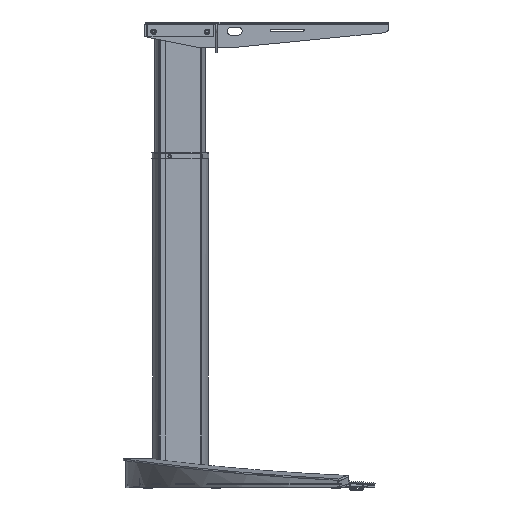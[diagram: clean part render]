
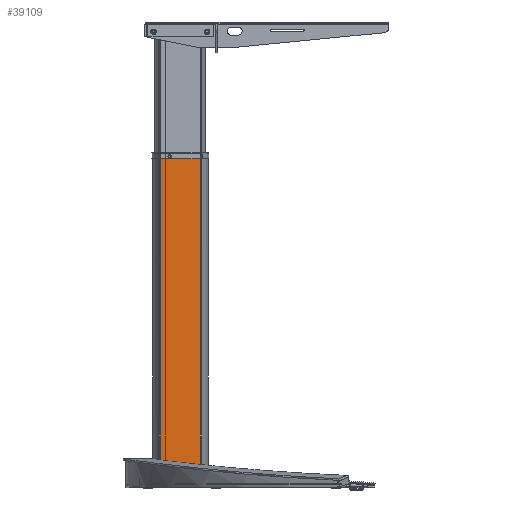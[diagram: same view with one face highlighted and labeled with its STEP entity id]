
A CAD part, left-side view. The second image highlights one B-rep face of the part: STEP entity #39109.
In plain terms, the highlighted planar face has unit normal (-1, 0, 0).
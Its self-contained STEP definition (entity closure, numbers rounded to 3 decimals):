
#482 = ORIENTED_EDGE ( 'NONE', *, *, #15010, .T. ) ;
#763 = VERTEX_POINT ( 'NONE', #54035 ) ;
#1947 = EDGE_LOOP ( 'NONE', ( #65397 ) ) ;
#3907 = VECTOR ( 'NONE', #50839, 1000. ) ;
#4555 = CARTESIAN_POINT ( 'NONE',  ( -70., -39., 0. ) ) ;
#5405 = ORIENTED_EDGE ( 'NONE', *, *, #64139, .F. ) ;
#5839 = VERTEX_POINT ( 'NONE', #33212 ) ;
#6597 = PLANE ( 'NONE',  #32232 ) ;
#7119 = ORIENTED_EDGE ( 'NONE', *, *, #12530, .T. ) ;
#8088 = CARTESIAN_POINT ( 'NONE',  ( -70., 12.4, 4.1 ) ) ;
#8822 = EDGE_LOOP ( 'NONE', ( #5405, #56926, #22503, #30174, #25207, #14390, #7119, #30682, #20353, #29111, #69100, #482 ) ) ;
#9434 = VECTOR ( 'NONE', #44967, 1000. ) ;
#9830 = LINE ( 'NONE', #36244, #23293 ) ;
#11983 = CARTESIAN_POINT ( 'NONE',  ( -70., 12.4, 644. ) ) ;
#12367 = EDGE_CURVE ( 'NONE', #763, #59251, #73743, .T. ) ;
#12530 = EDGE_CURVE ( 'NONE', #19166, #763, #27250, .T. ) ;
#12806 = DIRECTION ( 'NONE',  ( 1., 0., 0. ) ) ;
#13838 = VECTOR ( 'NONE', #63009, 1000. ) ;
#14390 = ORIENTED_EDGE ( 'NONE', *, *, #35359, .F. ) ;
#15010 = EDGE_CURVE ( 'NONE', #62710, #49616, #66361, .T. ) ;
#16326 = CARTESIAN_POINT ( 'NONE',  ( -70., 12.4, 0. ) ) ;
#17404 = VERTEX_POINT ( 'NONE', #69768 ) ;
#18521 = DIRECTION ( 'NONE',  ( 0., -1., 0. ) ) ;
#18907 = CARTESIAN_POINT ( 'NONE',  ( -70., -12.4, 4.1 ) ) ;
#19166 = VERTEX_POINT ( 'NONE', #33176 ) ;
#20353 = ORIENTED_EDGE ( 'NONE', *, *, #55429, .F. ) ;
#22503 = ORIENTED_EDGE ( 'NONE', *, *, #63294, .T. ) ;
#23293 = VECTOR ( 'NONE', #42483, 1000. ) ;
#24444 = VECTOR ( 'NONE', #48288, 1000. ) ;
#25207 = ORIENTED_EDGE ( 'NONE', *, *, #30601, .F. ) ;
#25915 = CARTESIAN_POINT ( 'NONE',  ( -70., -39., 4.1 ) ) ;
#26388 = CARTESIAN_POINT ( 'NONE',  ( -70., -12.4, 4.1 ) ) ;
#27139 = DIRECTION ( 'NONE',  ( 0., -1., 0. ) ) ;
#27250 = LINE ( 'NONE', #54215, #63917 ) ;
#28877 = CARTESIAN_POINT ( 'NONE',  ( -70., 27.6, 0. ) ) ;
#29111 = ORIENTED_EDGE ( 'NONE', *, *, #64055, .F. ) ;
#29367 = DIRECTION ( 'NONE',  ( 1., 0., 0. ) ) ;
#29532 = CARTESIAN_POINT ( 'NONE',  ( -70., -39., 0. ) ) ;
#29698 = CARTESIAN_POINT ( 'NONE',  ( -70., 39., 0. ) ) ;
#29834 = CARTESIAN_POINT ( 'NONE',  ( -70., 27.6, 4.1 ) ) ;
#30174 = ORIENTED_EDGE ( 'NONE', *, *, #70479, .T. ) ;
#30601 = EDGE_CURVE ( 'NONE', #56719, #62753, #72101, .T. ) ;
#30664 = CARTESIAN_POINT ( 'NONE',  ( -70., 20.312, 634.25 ) ) ;
#30682 = ORIENTED_EDGE ( 'NONE', *, *, #12367, .T. ) ;
#32232 = AXIS2_PLACEMENT_3D ( 'NONE', #52583, #29367, #41351 ) ;
#32565 = LINE ( 'NONE', #66647, #44161 ) ;
#33176 = CARTESIAN_POINT ( 'NONE',  ( -70., -27.6, 4.1 ) ) ;
#33212 = CARTESIAN_POINT ( 'NONE',  ( -70., -38.327, 644. ) ) ;
#35359 = EDGE_CURVE ( 'NONE', #19166, #56719, #65387, .T. ) ;
#35785 = CARTESIAN_POINT ( 'NONE',  ( -70., 20.312, 638. ) ) ;
#36059 = EDGE_CURVE ( 'NONE', #17404, #62710, #9830, .T. ) ;
#36244 = CARTESIAN_POINT ( 'NONE',  ( -70., 39., 644. ) ) ;
#37852 = DIRECTION ( 'NONE',  ( 0., 1., 0. ) ) ;
#38823 = DIRECTION ( 'NONE',  ( 0., -1., 0. ) ) ;
#39109 = ADVANCED_FACE ( 'NONE', ( #58779, #47987 ), #6597, .F. ) ;
#39693 = EDGE_CURVE ( 'NONE', #55384, #68392, #52390, .T. ) ;
#41351 = DIRECTION ( 'NONE',  ( 0., 0., -1. ) ) ;
#42483 = DIRECTION ( 'NONE',  ( 0., 0., -1. ) ) ;
#42967 = VECTOR ( 'NONE', #37852, 1000. ) ;
#44161 = VECTOR ( 'NONE', #27139, 1000. ) ;
#44967 = DIRECTION ( 'NONE',  ( 0., 0., -1. ) ) ;
#44977 = CARTESIAN_POINT ( 'NONE',  ( -70., -39., 0. ) ) ;
#45089 = LINE ( 'NONE', #51081, #3907 ) ;
#46036 = LINE ( 'NONE', #11983, #13838 ) ;
#47418 = VECTOR ( 'NONE', #38823, 1000. ) ;
#47987 = FACE_OUTER_BOUND ( 'NONE', #8822, .T. ) ;
#48288 = DIRECTION ( 'NONE',  ( 0., 0., -1. ) ) ;
#48857 = DIRECTION ( 'NONE',  ( 0., -1., 0. ) ) ;
#49616 = VERTEX_POINT ( 'NONE', #28877 ) ;
#50450 = VECTOR ( 'NONE', #18521, 1000. ) ;
#50839 = DIRECTION ( 'NONE',  ( 0., 0., -1. ) ) ;
#51081 = CARTESIAN_POINT ( 'NONE',  ( -70., 27.6, 644. ) ) ;
#52202 = CARTESIAN_POINT ( 'NONE',  ( -70., -12.4, 0. ) ) ;
#52390 = LINE ( 'NONE', #25915, #60447 ) ;
#52583 = CARTESIAN_POINT ( 'NONE',  ( -70., -39., 644. ) ) ;
#53730 = DIRECTION ( 'NONE',  ( 0., 0., -1. ) ) ;
#53874 = LINE ( 'NONE', #70841, #24444 ) ;
#54035 = CARTESIAN_POINT ( 'NONE',  ( -70., -27.6, 0. ) ) ;
#54215 = CARTESIAN_POINT ( 'NONE',  ( -70., -27.6, 4.1 ) ) ;
#55384 = VERTEX_POINT ( 'NONE', #29834 ) ;
#55429 = EDGE_CURVE ( 'NONE', #5839, #59251, #53874, .T. ) ;
#56719 = VERTEX_POINT ( 'NONE', #18907 ) ;
#56926 = ORIENTED_EDGE ( 'NONE', *, *, #39693, .T. ) ;
#58189 = VERTEX_POINT ( 'NONE', #16326 ) ;
#58435 = EDGE_CURVE ( 'NONE', #60380, #60380, #60750, .T. ) ;
#58779 = FACE_BOUND ( 'NONE', #1947, .T. ) ;
#59251 = VERTEX_POINT ( 'NONE', #71443 ) ;
#60380 = VERTEX_POINT ( 'NONE', #30664 ) ;
#60447 = VECTOR ( 'NONE', #48857, 1000. ) ;
#60750 = CIRCLE ( 'NONE', #70815, 3.75 ) ;
#61722 = LINE ( 'NONE', #4555, #47418 ) ;
#62710 = VERTEX_POINT ( 'NONE', #29698 ) ;
#62753 = VERTEX_POINT ( 'NONE', #52202 ) ;
#63009 = DIRECTION ( 'NONE',  ( 0., 0., -1. ) ) ;
#63294 = EDGE_CURVE ( 'NONE', #68392, #58189, #46036, .T. ) ;
#63917 = VECTOR ( 'NONE', #53730, 1000. ) ;
#64055 = EDGE_CURVE ( 'NONE', #17404, #5839, #32565, .T. ) ;
#64079 = DIRECTION ( 'NONE',  ( 0., 0., -1. ) ) ;
#64139 = EDGE_CURVE ( 'NONE', #55384, #49616, #45089, .T. ) ;
#65387 = LINE ( 'NONE', #26388, #42967 ) ;
#65397 = ORIENTED_EDGE ( 'NONE', *, *, #58435, .T. ) ;
#66361 = LINE ( 'NONE', #44977, #73550 ) ;
#66647 = CARTESIAN_POINT ( 'NONE',  ( -70., -39., 644. ) ) ;
#68392 = VERTEX_POINT ( 'NONE', #8088 ) ;
#69100 = ORIENTED_EDGE ( 'NONE', *, *, #36059, .T. ) ;
#69768 = CARTESIAN_POINT ( 'NONE',  ( -70., 39., 644. ) ) ;
#70479 = EDGE_CURVE ( 'NONE', #58189, #62753, #61722, .T. ) ;
#70815 = AXIS2_PLACEMENT_3D ( 'NONE', #35785, #12806, #64079 ) ;
#70841 = CARTESIAN_POINT ( 'NONE',  ( -70., -38.327, 644. ) ) ;
#71443 = CARTESIAN_POINT ( 'NONE',  ( -70., -38.327, 0. ) ) ;
#72101 = LINE ( 'NONE', #74260, #9434 ) ;
#73292 = DIRECTION ( 'NONE',  ( 0., -1., 0. ) ) ;
#73550 = VECTOR ( 'NONE', #73292, 1000. ) ;
#73743 = LINE ( 'NONE', #29532, #50450 ) ;
#74260 = CARTESIAN_POINT ( 'NONE',  ( -70., -12.4, 4.1 ) ) ;
